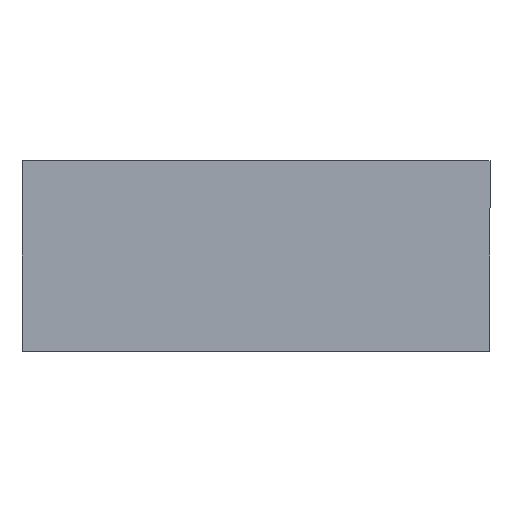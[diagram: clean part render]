
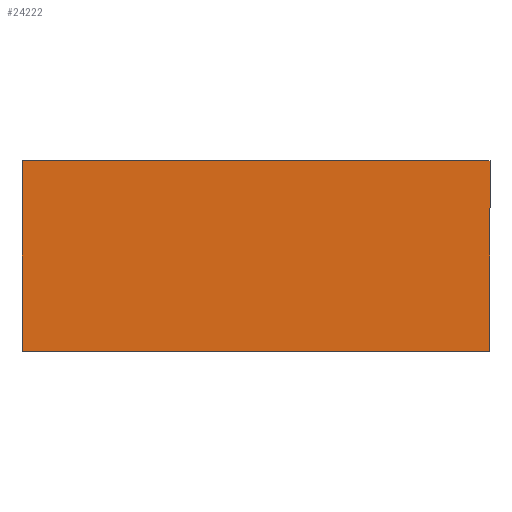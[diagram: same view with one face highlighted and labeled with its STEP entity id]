
A CAD part, front view. The second image highlights one B-rep face of the part: STEP entity #24222.
In plain terms, the highlighted planar face has unit normal (0, -1, 0).
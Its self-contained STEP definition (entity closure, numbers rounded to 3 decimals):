
#575 = EDGE_CURVE ( 'NONE', #14517, #25341, #27780, .T. ) ;
#984 = LINE ( 'NONE', #30817, #9991 ) ;
#2414 = PLANE ( 'NONE',  #20775 ) ;
#3410 = CARTESIAN_POINT ( 'NONE',  ( 612.333, -136.151, -238.12 ) ) ;
#3802 = DIRECTION ( 'NONE',  ( 1., 0., 0. ) ) ;
#4352 = FACE_OUTER_BOUND ( 'NONE', #23288, .T. ) ;
#4608 = ORIENTED_EDGE ( 'NONE', *, *, #33033, .F. ) ;
#6851 = CARTESIAN_POINT ( 'NONE',  ( -612.332, -136.151, -238.12 ) ) ;
#8521 = ORIENTED_EDGE ( 'NONE', *, *, #24477, .F. ) ;
#9991 = VECTOR ( 'NONE', #3802, 1000. ) ;
#10238 = CARTESIAN_POINT ( 'NONE',  ( 0.002, -136.151, 0. ) ) ;
#12736 = DIRECTION ( 'NONE',  ( 0., -1., 0. ) ) ;
#13454 = CARTESIAN_POINT ( 'NONE',  ( 612.333, -136.151, 259.293 ) ) ;
#14399 = VECTOR ( 'NONE', #16786, 1000. ) ;
#14517 = VERTEX_POINT ( 'NONE', #13454 ) ;
#16226 = DIRECTION ( 'NONE',  ( 0., 0., 1. ) ) ;
#16254 = VERTEX_POINT ( 'NONE', #32414 ) ;
#16786 = DIRECTION ( 'NONE',  ( 0., 0., -1. ) ) ;
#16965 = EDGE_CURVE ( 'NONE', #16254, #31957, #21037, .T. ) ;
#18745 = CARTESIAN_POINT ( 'NONE',  ( -612.332, -136.151, -238.12 ) ) ;
#20775 = AXIS2_PLACEMENT_3D ( 'NONE', #10238, #12736, #23585 ) ;
#20865 = ORIENTED_EDGE ( 'NONE', *, *, #575, .F. ) ;
#20950 = ORIENTED_EDGE ( 'NONE', *, *, #16965, .F. ) ;
#21037 = LINE ( 'NONE', #18745, #34861 ) ;
#22406 = LINE ( 'NONE', #6851, #33323 ) ;
#22670 = CARTESIAN_POINT ( 'NONE',  ( -612.332, -136.151, 259.293 ) ) ;
#23288 = EDGE_LOOP ( 'NONE', ( #20950, #4608, #20865, #8521 ) ) ;
#23585 = DIRECTION ( 'NONE',  ( 0., 0., -1. ) ) ;
#24222 = ADVANCED_FACE ( 'NONE', ( #4352 ), #2414, .T. ) ;
#24477 = EDGE_CURVE ( 'NONE', #31957, #14517, #984, .T. ) ;
#24751 = CARTESIAN_POINT ( 'NONE',  ( 612.333, -136.151, -238.12 ) ) ;
#25064 = DIRECTION ( 'NONE',  ( -1., 0., 0. ) ) ;
#25341 = VERTEX_POINT ( 'NONE', #24751 ) ;
#27780 = LINE ( 'NONE', #3410, #14399 ) ;
#30817 = CARTESIAN_POINT ( 'NONE',  ( -612.332, -136.151, 259.293 ) ) ;
#31957 = VERTEX_POINT ( 'NONE', #22670 ) ;
#32414 = CARTESIAN_POINT ( 'NONE',  ( -612.332, -136.151, -238.12 ) ) ;
#33033 = EDGE_CURVE ( 'NONE', #25341, #16254, #22406, .T. ) ;
#33323 = VECTOR ( 'NONE', #25064, 1000. ) ;
#34861 = VECTOR ( 'NONE', #16226, 1000. ) ;
